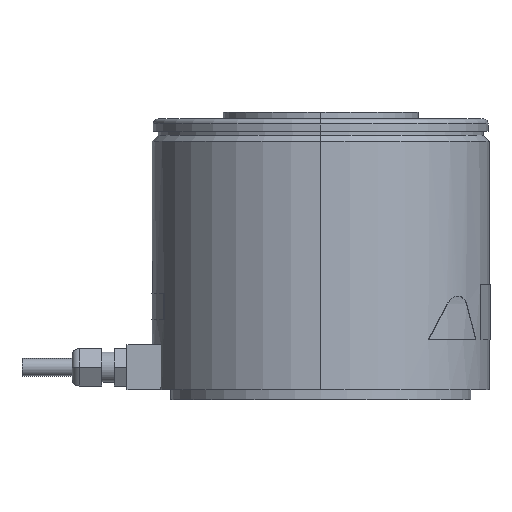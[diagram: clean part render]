
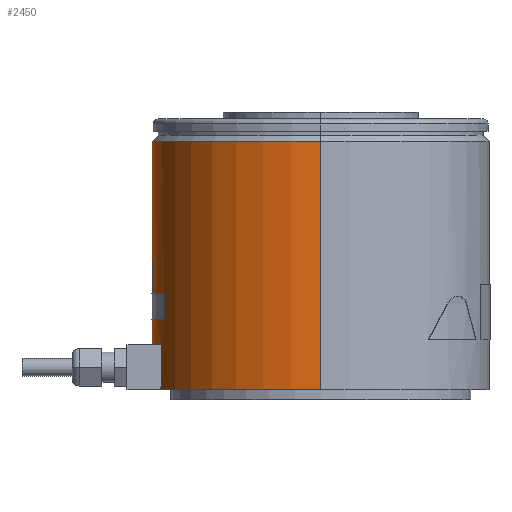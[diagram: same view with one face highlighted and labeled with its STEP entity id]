
A CAD part, left-side view. The second image highlights one B-rep face of the part: STEP entity #2450.
In plain terms, the highlighted cylindrical face has radius 67.5 mm (diameter 135 mm), a partial arc.
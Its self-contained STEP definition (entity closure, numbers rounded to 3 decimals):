
#2425 = VERTEX_POINT ( 'NONE', #4598 ) ;
#2427 = EDGE_CURVE ( 'NONE', #2428, #2425, #4597, .T. ) ;
#2428 = VERTEX_POINT ( 'NONE', #4592 ) ;
#2431 = ORIENTED_EDGE ( 'NONE', *, *, #2432, .T. ) ;
#2432 = EDGE_CURVE ( 'NONE', #2459, #2454, #4587, .T. ) ;
#2433 = EDGE_LOOP ( 'NONE', ( #2434, #2438, #2441, #2499 ) ) ;
#2434 = ORIENTED_EDGE ( 'NONE', *, *, #2435, .F. ) ;
#2435 = EDGE_CURVE ( 'NONE', #2436, #2437, #4583, .T. ) ;
#2436 = VERTEX_POINT ( 'NONE', #4578 ) ;
#2437 = VERTEX_POINT ( 'NONE', #4579 ) ;
#2438 = ORIENTED_EDGE ( 'NONE', *, *, #2439, .T. ) ;
#2439 = EDGE_CURVE ( 'NONE', #2436, #2440, #4640, .T. ) ;
#2440 = VERTEX_POINT ( 'NONE', #4635 ) ;
#2441 = ORIENTED_EDGE ( 'NONE', *, *, #2442, .F. ) ;
#2442 = EDGE_CURVE ( 'NONE', #2443, #2440, #4634, .T. ) ;
#2443 = VERTEX_POINT ( 'NONE', #4630 ) ;
#2444 = EDGE_LOOP ( 'NONE', ( #2501, #2502, #2505, #2508 ) ) ;
#2450 = ADVANCED_FACE ( 'NONE', ( #4619, #4618, #4617 ), #4616, .T. ) ;
#2451 = EDGE_LOOP ( 'NONE', ( #2452, #2456, #2513, #2431 ) ) ;
#2452 = ORIENTED_EDGE ( 'NONE', *, *, #2453, .T. ) ;
#2453 = EDGE_CURVE ( 'NONE', #2454, #2455, #4610, .T. ) ;
#2454 = VERTEX_POINT ( 'NONE', #4669 ) ;
#2455 = VERTEX_POINT ( 'NONE', #4668 ) ;
#2456 = ORIENTED_EDGE ( 'NONE', *, *, #2457, .T. ) ;
#2457 = EDGE_CURVE ( 'NONE', #2455, #2458, #4667, .T. ) ;
#2458 = VERTEX_POINT ( 'NONE', #4663 ) ;
#2459 = VERTEX_POINT ( 'NONE', #4662 ) ;
#2499 = ORIENTED_EDGE ( 'NONE', *, *, #2500, .F. ) ;
#2500 = EDGE_CURVE ( 'NONE', #2437, #2443, #4714, .T. ) ;
#2501 = ORIENTED_EDGE ( 'NONE', *, *, #2427, .T. ) ;
#2502 = ORIENTED_EDGE ( 'NONE', *, *, #2503, .T. ) ;
#2503 = EDGE_CURVE ( 'NONE', #2425, #2504, #4709, .T. ) ;
#2504 = VERTEX_POINT ( 'NONE', #4705 ) ;
#2505 = ORIENTED_EDGE ( 'NONE', *, *, #2506, .F. ) ;
#2506 = EDGE_CURVE ( 'NONE', #2507, #2504, #4702, .T. ) ;
#2507 = VERTEX_POINT ( 'NONE', #4765 ) ;
#2508 = ORIENTED_EDGE ( 'NONE', *, *, #2509, .F. ) ;
#2509 = EDGE_CURVE ( 'NONE', #2428, #2507, #4764, .T. ) ;
#2513 = ORIENTED_EDGE ( 'NONE', *, *, #2514, .T. ) ;
#2514 = EDGE_CURVE ( 'NONE', #2458, #2459, #4753, .T. ) ;
#4185 = DIRECTION ( 'NONE',  ( -1., 0., 0. ) ) ;
#4186 = DIRECTION ( 'NONE',  ( 0., 0., -1. ) ) ;
#4191 = CARTESIAN_POINT ( 'NONE',  ( 0., 0., 4. ) ) ;
#4578 = CARTESIAN_POINT ( 'NONE',  ( 21.75, 63.9, 22. ) ) ;
#4579 = CARTESIAN_POINT ( 'NONE',  ( 21.75, 63.9, 5. ) ) ;
#4580 = DIRECTION ( 'NONE',  ( 0., 0., -1. ) ) ;
#4581 = VECTOR ( 'NONE', #4580, 1000. ) ;
#4582 = CARTESIAN_POINT ( 'NONE',  ( 21.75, 63.9, -59.236 ) ) ;
#4583 = LINE ( 'NONE', #4582, #4581 ) ;
#4584 = DIRECTION ( 'NONE',  ( 0., 0., 1. ) ) ;
#4585 = VECTOR ( 'NONE', #4584, 1000. ) ;
#4586 = CARTESIAN_POINT ( 'NONE',  ( 25., 62.7, -59.236 ) ) ;
#4587 = LINE ( 'NONE', #4586, #4585 ) ;
#4592 = CARTESIAN_POINT ( 'NONE',  ( -67.5, 0., 103.3 ) ) ;
#4593 = DIRECTION ( 'NONE',  ( -1., 0., 0. ) ) ;
#4594 = DIRECTION ( 'NONE',  ( 0., 0., -1. ) ) ;
#4595 = CARTESIAN_POINT ( 'NONE',  ( 0., 0., 103.3 ) ) ;
#4596 = AXIS2_PLACEMENT_3D ( 'NONE', #4595, #4594, #4593 ) ;
#4597 = CIRCLE ( 'NONE', #4596, 67.5 ) ;
#4598 = CARTESIAN_POINT ( 'NONE',  ( 67.5, 0., 103.3 ) ) ;
#4608 = DIRECTION ( 'NONE',  ( 0., 0., 1. ) ) ;
#4609 = AXIS2_PLACEMENT_3D ( 'NONE', #4615, #4608, #4670 ) ;
#4610 = CIRCLE ( 'NONE', #4609, 67.5 ) ;
#4611 = DIRECTION ( 'NONE',  ( -1., 0., 0. ) ) ;
#4612 = DIRECTION ( 'NONE',  ( 0., 0., -1. ) ) ;
#4613 = CARTESIAN_POINT ( 'NONE',  ( 0., 0., -59.236 ) ) ;
#4614 = AXIS2_PLACEMENT_3D ( 'NONE', #4613, #4612, #4611 ) ;
#4615 = CARTESIAN_POINT ( 'NONE',  ( 0., 0., 42.5 ) ) ;
#4616 = CYLINDRICAL_SURFACE ( 'NONE', #4614, 67.5 ) ;
#4617 = FACE_OUTER_BOUND ( 'NONE', #2444, .T. ) ;
#4618 = FACE_BOUND ( 'NONE', #2433, .T. ) ;
#4619 = FACE_BOUND ( 'NONE', #2451, .T. ) ;
#4630 = CARTESIAN_POINT ( 'NONE',  ( -21.75, 63.9, 5. ) ) ;
#4631 = DIRECTION ( 'NONE',  ( 0., 0., 1. ) ) ;
#4632 = VECTOR ( 'NONE', #4631, 1000. ) ;
#4633 = CARTESIAN_POINT ( 'NONE',  ( -21.75, 63.9, -59.236 ) ) ;
#4634 = LINE ( 'NONE', #4633, #4632 ) ;
#4635 = CARTESIAN_POINT ( 'NONE',  ( -21.75, 63.9, 22. ) ) ;
#4636 = DIRECTION ( 'NONE',  ( 0., 1., 0. ) ) ;
#4637 = DIRECTION ( 'NONE',  ( 0., 0., 1. ) ) ;
#4638 = CARTESIAN_POINT ( 'NONE',  ( 0., 0., 22. ) ) ;
#4639 = AXIS2_PLACEMENT_3D ( 'NONE', #4638, #4637, #4636 ) ;
#4640 = CIRCLE ( 'NONE', #4639, 67.5 ) ;
#4662 = CARTESIAN_POINT ( 'NONE',  ( 25., 62.7, 32. ) ) ;
#4663 = CARTESIAN_POINT ( 'NONE',  ( -25., 62.7, 32. ) ) ;
#4664 = DIRECTION ( 'NONE',  ( 0., 0., -1. ) ) ;
#4665 = VECTOR ( 'NONE', #4664, 1000. ) ;
#4666 = CARTESIAN_POINT ( 'NONE',  ( -25., 62.7, -59.236 ) ) ;
#4667 = LINE ( 'NONE', #4666, #4665 ) ;
#4668 = CARTESIAN_POINT ( 'NONE',  ( -25., 62.7, 42.5 ) ) ;
#4669 = CARTESIAN_POINT ( 'NONE',  ( 25., 62.7, 42.5 ) ) ;
#4670 = DIRECTION ( 'NONE',  ( -1., 0., 0. ) ) ;
#4701 = AXIS2_PLACEMENT_3D ( 'NONE', #4191, #4186, #4185 ) ;
#4702 = CIRCLE ( 'NONE', #4701, 67.5 ) ;
#4705 = CARTESIAN_POINT ( 'NONE',  ( 67.5, 0., 4. ) ) ;
#4706 = DIRECTION ( 'NONE',  ( 0., 0., -1. ) ) ;
#4707 = VECTOR ( 'NONE', #4706, 1000. ) ;
#4708 = CARTESIAN_POINT ( 'NONE',  ( 67.5, 0., -59.236 ) ) ;
#4709 = LINE ( 'NONE', #4708, #4707 ) ;
#4710 = DIRECTION ( 'NONE',  ( 0., 1., 0. ) ) ;
#4711 = DIRECTION ( 'NONE',  ( 0., 0., 1. ) ) ;
#4712 = CARTESIAN_POINT ( 'NONE',  ( 0., 0., 5. ) ) ;
#4713 = AXIS2_PLACEMENT_3D ( 'NONE', #4712, #4711, #4710 ) ;
#4714 = CIRCLE ( 'NONE', #4713, 67.5 ) ;
#4749 = DIRECTION ( 'NONE',  ( 1., 0., 0. ) ) ;
#4750 = DIRECTION ( 'NONE',  ( 0., 0., -1. ) ) ;
#4751 = CARTESIAN_POINT ( 'NONE',  ( 0., 0., 32. ) ) ;
#4752 = AXIS2_PLACEMENT_3D ( 'NONE', #4751, #4750, #4749 ) ;
#4753 = CIRCLE ( 'NONE', #4752, 67.5 ) ;
#4761 = DIRECTION ( 'NONE',  ( 0., 0., -1. ) ) ;
#4762 = VECTOR ( 'NONE', #4761, 1000. ) ;
#4763 = CARTESIAN_POINT ( 'NONE',  ( -67.5, 0., -59.236 ) ) ;
#4764 = LINE ( 'NONE', #4763, #4762 ) ;
#4765 = CARTESIAN_POINT ( 'NONE',  ( -67.5, 0., 4. ) ) ;
